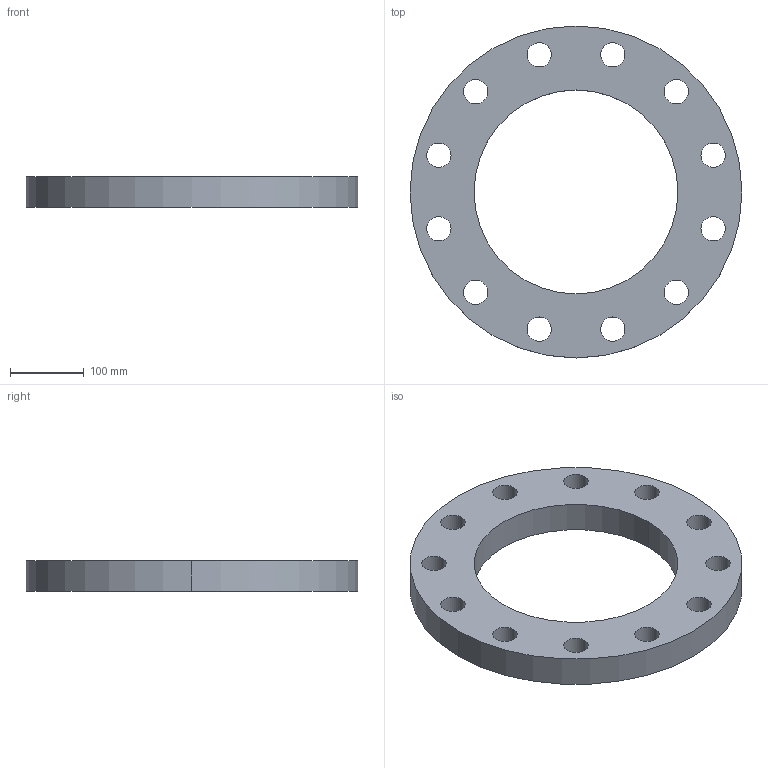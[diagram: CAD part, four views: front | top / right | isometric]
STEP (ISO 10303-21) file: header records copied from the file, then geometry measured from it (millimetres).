
FILE_DESCRIPTION (( 'STEP AP214' ), '1' );
FILE_NAME ('PN40 DN250 Type 01 - Type A Face.STEP', '2019-01-05T16:41:33', ( '' ), ( '' ), 'SwSTEP 2.0', 'SolidWorks 2019', '' );
FILE_SCHEMA (( 'AUTOMOTIVE_DESIGN' ));
Length unit declared in the file: millimetre
Products named in the file (1): PN40 DN250 Type 01 - Type A Face
Bounding box: 450 x 450 x 42 mm (x, y, z)
Volume: 3726831.7 mm3; surface area: 325578.6 mm2
Topology: 1 solids, 1 shells, 30 faces, 84 edges, 56 vertices
Faces by surface type: cylinder 28, plane 2
Entity records: 1090 total; most frequent: DIRECTION 202, CARTESIAN_POINT 171, ORIENTED_EDGE 168, AXIS2_PLACEMENT_3D 87, EDGE_CURVE 84, CIRCLE 56, EDGE_LOOP 56, VERTEX_POINT 56
